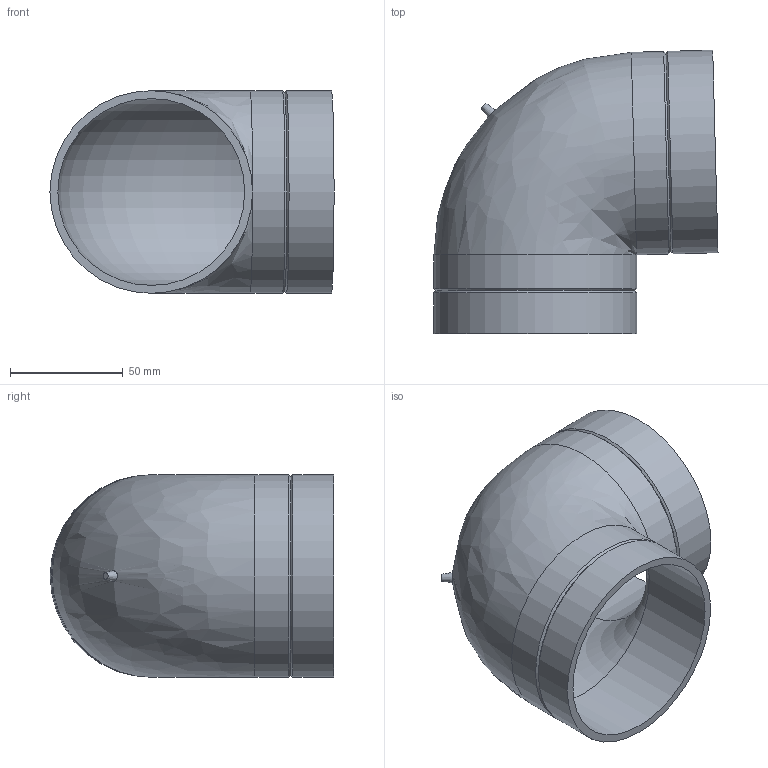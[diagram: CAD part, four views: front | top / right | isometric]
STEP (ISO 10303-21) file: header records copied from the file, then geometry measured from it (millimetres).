
FILE_DESCRIPTION(/* description */ (''),/* implementation_level */ '2;1');
FILE_NAME(/* name */ 'Z:\Geberit\Export\NewStep\366088.stp',/* time_stamp */ '2014-04-02T07:53:34+02:00',/* author */ ('nelson'),/* organization */ (''),/* preprocessor_version */ 'ST-DEVELOPER v15.2',/* originating_system */ 'Autodesk Inventor 2014',/* authorisation */ '');
FILE_SCHEMA (('AUTOMOTIVE_DESIGN { 1 0 10303 214 3 1 1 }'));
Length unit declared in the file: millimetre
Products named in the file (1): 366088
Bounding box: 126.18 x 125.93 x 90 mm (x, y, z)
Volume: 134301.1 mm3; surface area: 78888.6 mm2
Topology: 1 solids, 1 shells, 16 faces, 34 edges, 19 vertices
Faces by surface type: cylinder 6, cone 5, plane 3, torus 1, bspline 1
Full cylindrical faces by diameter (mm): 83 x2, 90 x4
Entity records: 459 total; most frequent: CARTESIAN_POINT 169, DIRECTION 62, ORIENTED_EDGE 32, EDGE_LOOP 31, AXIS2_PLACEMENT_3D 31, FACE_BOUND 18, EDGE_CURVE 16, ADVANCED_FACE 16
